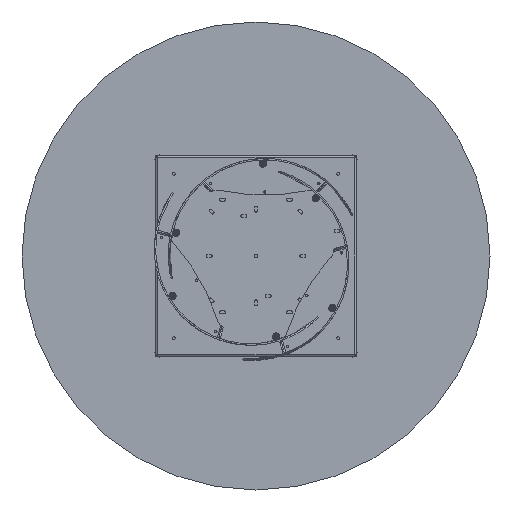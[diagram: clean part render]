
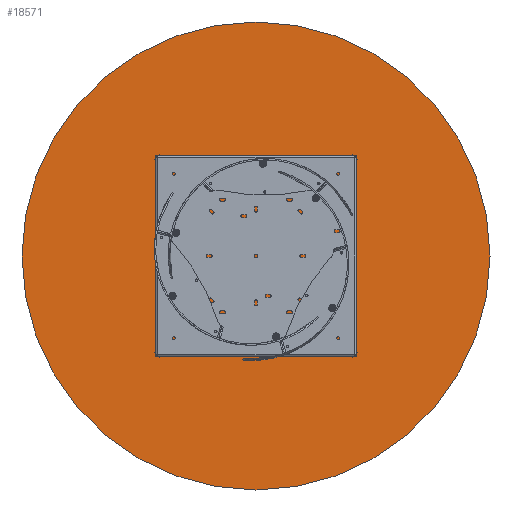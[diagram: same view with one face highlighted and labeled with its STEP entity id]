
A CAD part, front view. The second image highlights one B-rep face of the part: STEP entity #18571.
In plain terms, the highlighted planar face has unit normal (0, -1, 0).
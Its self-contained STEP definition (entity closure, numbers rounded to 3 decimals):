
#615 = AXIS2_PLACEMENT_3D ( 'NONE', #795, #7358, #2376 ) ;
#795 = CARTESIAN_POINT ( 'NONE',  ( 0., 0., 0. ) ) ;
#798 = DIRECTION ( 'NONE',  ( 0., -1., 0. ) ) ;
#1946 = DIRECTION ( 'NONE',  ( 0., -1., 0. ) ) ;
#2082 = AXIS2_PLACEMENT_3D ( 'NONE', #18254, #1946, #4811 ) ;
#2376 = DIRECTION ( 'NONE',  ( 0., 0., -1. ) ) ;
#2801 = CIRCLE ( 'NONE', #13482, 800. ) ;
#3449 = EDGE_CURVE ( 'NONE', #12413, #15804, #2801, .T. ) ;
#3772 = CIRCLE ( 'NONE', #615, 800. ) ;
#4811 = DIRECTION ( 'NONE',  ( 0., 0., -1. ) ) ;
#5272 = ORIENTED_EDGE ( 'NONE', *, *, #8529, .T. ) ;
#6650 = CARTESIAN_POINT ( 'NONE',  ( 0., 0., 800. ) ) ;
#7358 = DIRECTION ( 'NONE',  ( 0., -1., 0. ) ) ;
#8529 = EDGE_CURVE ( 'NONE', #15804, #12413, #3772, .T. ) ;
#9223 = PLANE ( 'NONE',  #2082 ) ;
#11705 = DIRECTION ( 'NONE',  ( 0., 0., -1. ) ) ;
#12082 = FACE_OUTER_BOUND ( 'NONE', #15882, .T. ) ;
#12413 = VERTEX_POINT ( 'NONE', #13521 ) ;
#12785 = ORIENTED_EDGE ( 'NONE', *, *, #3449, .T. ) ;
#13482 = AXIS2_PLACEMENT_3D ( 'NONE', #14287, #798, #11705 ) ;
#13521 = CARTESIAN_POINT ( 'NONE',  ( 0., 0., -800. ) ) ;
#14287 = CARTESIAN_POINT ( 'NONE',  ( 0., 0., 0. ) ) ;
#15804 = VERTEX_POINT ( 'NONE', #6650 ) ;
#15882 = EDGE_LOOP ( 'NONE', ( #12785, #5272 ) ) ;
#18254 = CARTESIAN_POINT ( 'NONE',  ( 0., 0., 0. ) ) ;
#18571 = ADVANCED_FACE ( 'NONE', ( #12082 ), #9223, .T. ) ;
